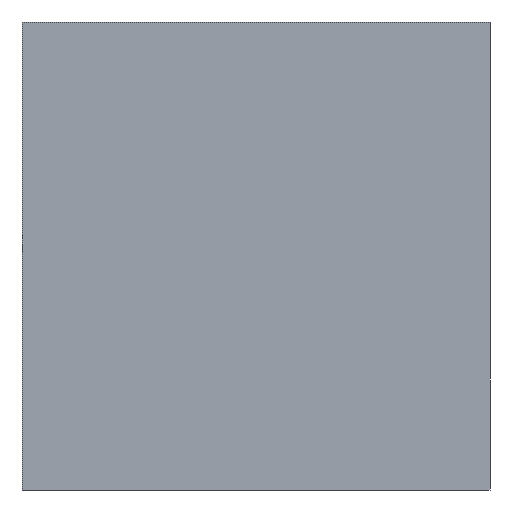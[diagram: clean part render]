
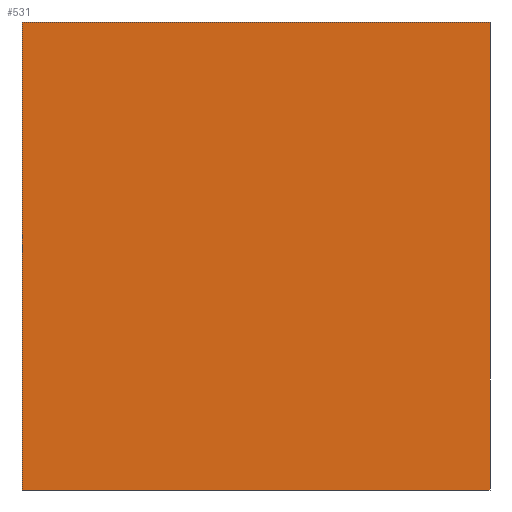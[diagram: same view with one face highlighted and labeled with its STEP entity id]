
A CAD part, front view. The second image highlights one B-rep face of the part: STEP entity #531.
In plain terms, the highlighted planar face has unit normal (0, -1, 0).
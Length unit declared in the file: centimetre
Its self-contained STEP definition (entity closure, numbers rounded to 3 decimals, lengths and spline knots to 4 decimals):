
#11 = LINE ( 'NONE', #66, #561 ) ;
#19 = EDGE_CURVE ( 'NONE', #50, #171, #29, .T. ) ;
#29 = LINE ( 'NONE', #707, #715 ) ;
#50 = VERTEX_POINT ( 'NONE', #456 ) ;
#51 = FACE_OUTER_BOUND ( 'NONE', #55, .T. ) ;
#55 = EDGE_LOOP ( 'NONE', ( #566, #621, #217, #578 ) ) ;
#66 = CARTESIAN_POINT ( 'NONE',  ( 1000., 0., 1000. ) ) ;
#115 = CARTESIAN_POINT ( 'NONE',  ( 0., 0., 0. ) ) ;
#133 = DIRECTION ( 'NONE',  ( 0., 0., -1. ) ) ;
#171 = VERTEX_POINT ( 'NONE', #772 ) ;
#183 = CARTESIAN_POINT ( 'NONE',  ( 0., 0., 1000. ) ) ;
#189 = DIRECTION ( 'NONE',  ( 1., 0., 0. ) ) ;
#217 = ORIENTED_EDGE ( 'NONE', *, *, #638, .F. ) ;
#244 = DIRECTION ( 'NONE',  ( 1., 0., 0. ) ) ;
#266 = VERTEX_POINT ( 'NONE', #363 ) ;
#267 = EDGE_CURVE ( 'NONE', #171, #339, #425, .T. ) ;
#301 = CARTESIAN_POINT ( 'NONE',  ( 0., 0., 1000. ) ) ;
#324 = VECTOR ( 'NONE', #189, 100. ) ;
#339 = VERTEX_POINT ( 'NONE', #581 ) ;
#363 = CARTESIAN_POINT ( 'NONE',  ( 1000., 0., 1000. ) ) ;
#421 = VECTOR ( 'NONE', #244, 100. ) ;
#425 = LINE ( 'NONE', #115, #324 ) ;
#427 = DIRECTION ( 'NONE',  ( 0., 0., 1. ) ) ;
#456 = CARTESIAN_POINT ( 'NONE',  ( 0., 0., 1000. ) ) ;
#468 = DIRECTION ( 'NONE',  ( 0., 0., -1. ) ) ;
#531 = ADVANCED_FACE ( 'NONE', ( #51 ), #727, .F. ) ;
#561 = VECTOR ( 'NONE', #133, 100. ) ;
#566 = ORIENTED_EDGE ( 'NONE', *, *, #267, .T. ) ;
#578 = ORIENTED_EDGE ( 'NONE', *, *, #19, .T. ) ;
#581 = CARTESIAN_POINT ( 'NONE',  ( 1000., 0., 0. ) ) ;
#619 = DIRECTION ( 'NONE',  ( 0., 1., 0. ) ) ;
#621 = ORIENTED_EDGE ( 'NONE', *, *, #801, .F. ) ;
#629 = AXIS2_PLACEMENT_3D ( 'NONE', #301, #619, #427 ) ;
#638 = EDGE_CURVE ( 'NONE', #50, #266, #729, .T. ) ;
#707 = CARTESIAN_POINT ( 'NONE',  ( 0., 0., 1000. ) ) ;
#715 = VECTOR ( 'NONE', #468, 100. ) ;
#727 = PLANE ( 'NONE',  #629 ) ;
#729 = LINE ( 'NONE', #183, #421 ) ;
#772 = CARTESIAN_POINT ( 'NONE',  ( 0., 0., 0. ) ) ;
#801 = EDGE_CURVE ( 'NONE', #266, #339, #11, .T. ) ;
